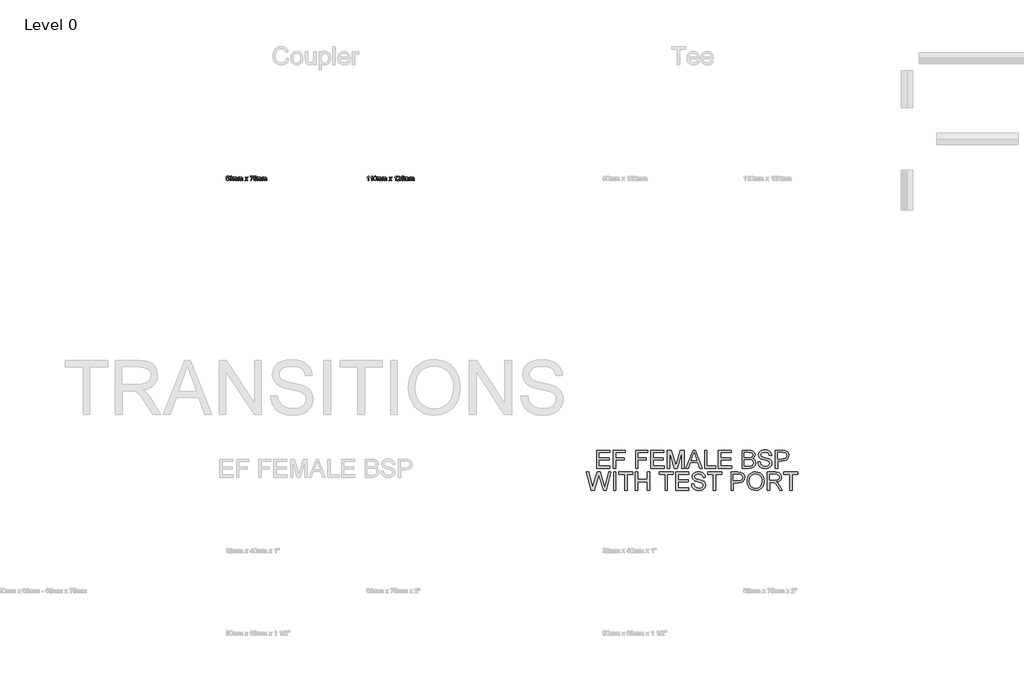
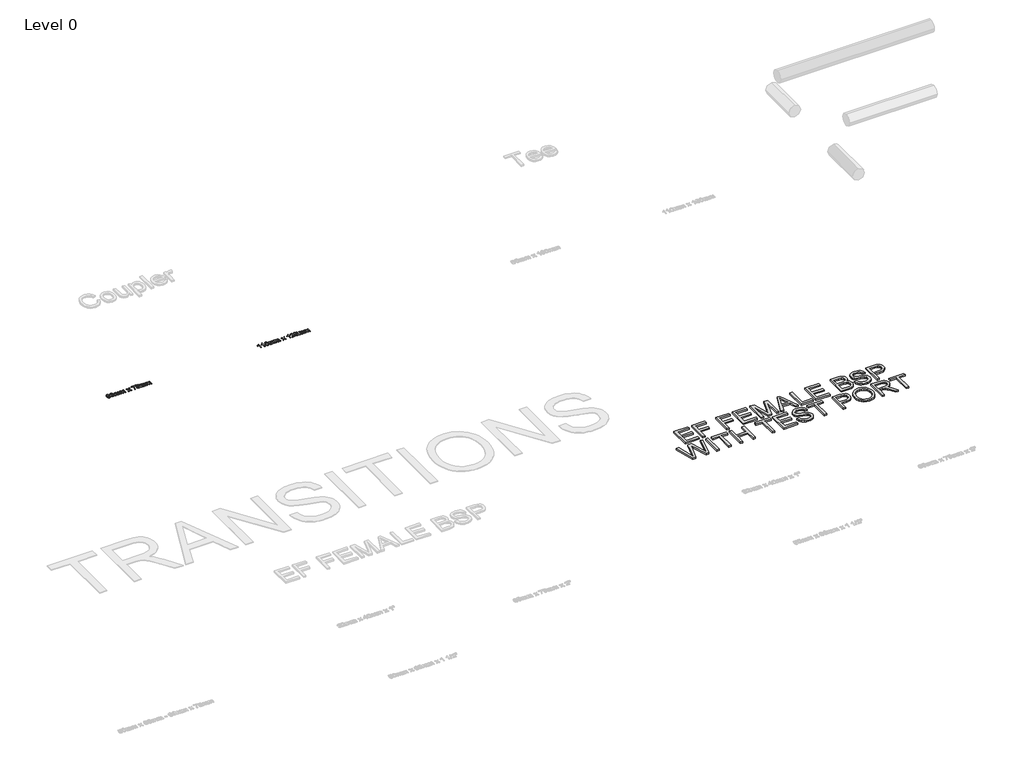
# One storey, part 6 of 21: 3 proxies.
"""IFC4 building model written with IfcOpenShell, lengths in millimetres."""

from ifc_helpers import new_model, si_unit, origin, origin_with_axes, place, context, project, spatial, polyline, outline, extrude, element, save

model = new_model("IFC4")

# Units and contexts
model_context = context("Model", 3, world=origin())
ifc_project = project(units=[si_unit("LENGTHUNIT", "METRE", prefix="MILLI")], contexts=[model_context])

# Site, building, storey
site = spatial("IfcSite", under=ifc_project)
building = spatial("IfcBuilding", under=site)
storey = spatial("IfcBuildingStorey", under=building, Name="Level 0", Elevation=0.0)

# Proxies
placement = place(None, origin())
element("IfcBuildingElementProxy", 1, Name="200mm Arial", ObjectType="200mm Arial", at=placement, inside=storey, context=model_context, shape_type="SweptSolid", body=[
    extrude(outline(polyline([(-3307.146494, -11853.2112631), (-3307.146494, -11652.2986428), (-3162.7405482, -11652.2986428), (-3162.7405482, -11677.4127203), (-3282.0324165, -11677.4127203), (-3282.0324165, -11737.0586545), (-3169.0190676, -11737.0586545), (-3169.0190676, -11762.172732), (-3282.0324165, -11762.172732), (-3282.0324165, -11828.0971856), (-3159.6012885, -11828.0971856), (-3159.6012885, -11853.2112631), (-3307.146494, -11853.2112631)])), origin_with_axes(), (0.0, 0.0, 1.0), 15.0),
    extrude(outline(polyline([(-3121.9301722, -11853.2112631), (-3121.9301722, -11652.2986428), (-2986.9420054, -11652.2986428), (-2986.9420054, -11677.4127203), (-3096.8160946, -11677.4127203), (-3096.8160946, -11737.0586545), (-3002.6383039, -11737.0586545), (-3002.6383039, -11762.172732), (-3096.8160946, -11762.172732), (-3096.8160946, -11853.2112631), (-3121.9301722, -11853.2112631)])), origin_with_axes(), (0.0, 0.0, 1.0), 15.0),
    extrude(outline(polyline([(-2873.9286565, -11853.2112631), (-2873.9286565, -11652.2986428), (-2738.9404897, -11652.2986428), (-2738.9404897, -11677.4127203), (-2848.814579, -11677.4127203), (-2848.814579, -11737.0586545), (-2754.6367882, -11737.0586545), (-2754.6367882, -11762.172732), (-2848.814579, -11762.172732), (-2848.814579, -11853.2112631), (-2873.9286565, -11853.2112631)])), origin_with_axes(), (0.0, 0.0, 1.0), 15.0),
    extrude(outline(polyline([(-2704.4086331, -11853.2112631), (-2704.4086331, -11652.2986428), (-2560.0026873, -11652.2986428), (-2560.0026873, -11677.4127203), (-2679.2945556, -11677.4127203), (-2679.2945556, -11737.0586545), (-2566.2812067, -11737.0586545), (-2566.2812067, -11762.172732), (-2679.2945556, -11762.172732), (-2679.2945556, -11828.0971856), (-2556.8634276, -11828.0971856), (-2556.8634276, -11853.2112631), (-2704.4086331, -11853.2112631)])), origin_with_axes(), (0.0, 0.0, 1.0), 15.0),
    extrude(outline(polyline([(-2519.1923113, -11853.2112631), (-2519.1923113, -11652.2986428), (-2475.9784396, -11652.2986428), (-2434.873758, -11793.9086855), (-2426.5841504, -11823.4863979), (-2417.6078297, -11791.4561388), (-2377.1898611, -11652.2986428), (-2333.9759894, -11652.2986428), (-2333.9759894, -11853.2112631), (-2359.090067, -11853.2112631), (-2359.090067, -11677.4127203), (-2409.5634767, -11853.2112631), (-2443.604824, -11853.2112631), (-2494.0782337, -11677.4127203), (-2494.0782337, -11853.2112631), (-2519.1923113, -11853.2112631)])), origin_with_axes(), (0.0, 0.0, 1.0), 15.0),
    extrude(outline(polyline([(-2313.4236486, -11853.2112631), (-2233.2253737, -11652.2986428), (-2211.839167, -11652.2986428), (-2131.6408921, -11853.2112631), (-2158.1774467, -11853.2112631), (-2181.1823341, -11790.4260692), (-2263.9312576, -11790.4260692), (-2286.8870941, -11853.2112631), (-2313.4236486, -11853.2112631)]), holes=[polyline([(-2254.7096822, -11765.3119917), (-2190.3548585, -11765.3119917), (-2208.4546527, -11715.9177025), (-2222.5322704, -11677.4127203), (-2235.0402582, -11711.6012204), (-2254.7096822, -11765.3119917)])]), origin_with_axes(), (0.0, 0.0, 1.0), 15.0),
    extrude(outline(polyline([(-2104.8100319, -11853.2112631), (-2104.8100319, -11652.2986428), (-2079.6959544, -11652.2986428), (-2079.6959544, -11828.0971856), (-1979.2396442, -11828.0971856), (-1979.2396442, -11853.2112631), (-2104.8100319, -11853.2112631)])), origin_with_axes(), (0.0, 0.0, 1.0), 15.0),
    extrude(outline(polyline([(-1950.986307, -11853.2112631), (-1950.986307, -11652.2986428), (-1806.5803612, -11652.2986428), (-1806.5803612, -11677.4127203), (-1925.8722295, -11677.4127203), (-1925.8722295, -11737.0586545), (-1812.8588805, -11737.0586545), (-1812.8588805, -11762.172732), (-1925.8722295, -11762.172732), (-1925.8722295, -11828.0971856), (-1803.4411015, -11828.0971856), (-1803.4411015, -11853.2112631), (-1950.986307, -11853.2112631)])), origin_with_axes(), (0.0, 0.0, 1.0), 15.0),
    extrude(outline(polyline([(-1687.2884929, -11853.2112631), (-1687.2884929, -11652.2986428), (-1610.6218851, -11652.2986428), (-1589.5361154, -11653.7763021), (-1573.0733961, -11658.2092802), (-1560.4550437, -11665.7079415), (-1550.9023745, -11676.3826507), (-1544.8875039, -11688.9396895), (-1542.882547, -11702.0853395), (-1544.5686728, -11714.1825257), (-1549.6270503, -11725.5562108), (-1558.0944675, -11735.5074187), (-1570.0077128, -11743.3371739), (-1555.7768109, -11750.7683902), (-1545.2615173, -11762.0746302), (-1538.7684, -11776.5078671), (-1536.6040276, -11793.3200743), (-1542.514665, -11820.3226127), (-1557.1563684, -11839.5505783), (-1579.0085589, -11849.7531723), (-1611.2104963, -11853.2112631), (-1687.2884929, -11853.2112631)]), holes=[polyline([(-1662.1744153, -11733.9193948), (-1616.3117933, -11733.9193948), (-1589.529984, -11731.7611537), (-1573.4167526, -11722.466002), (-1567.9966246, -11706.107516), (-1573.0488706, -11689.7245044), (-1587.5188958, -11680.0369452), (-1619.7944095, -11677.4127203), (-1662.1744153, -11677.4127203), (-1662.1744153, -11733.9193948)]), polyline([(-1662.1744153, -11828.0971856), (-1610.670936, -11828.0971856), (-1592.0315816, -11827.1161669), (-1576.2617067, -11821.6469879), (-1565.813858, -11810.4879007), (-1561.7181052, -11793.5653289), (-1566.5250966, -11774.0430577), (-1572.8220101, -11766.9858548), (-1582.0987677, -11762.3934612), (-1613.1234826, -11759.0334723), (-1662.1744153, -11759.0334723), (-1662.1744153, -11828.0971856)])]), origin_with_axes(), (0.0, 0.0, 1.0), 15.0),
    extrude(outline(polyline([(-1511.4899501, -11784.1475499), (-1486.3758726, -11784.1475499), (-1478.2824687, -11809.2861529), (-1470.1522766, -11818.1766344), (-1458.5149428, -11825.1786551), (-1444.2901723, -11829.7219977), (-1428.3976701, -11831.2364452), (-1402.1554211, -11826.650183), (-1385.2083239, -11814.0440933), (-1379.641043, -11797.195098), (-1383.8103723, -11781.523325), (-1390.1624681, -11775.3245133), (-1400.8800969, -11770.1189831), (-1437.4475672, -11760.5295258), (-1476.8109407, -11748.1441653), (-1489.3127972, -11739.6951421), (-1498.1726219, -11729.4557599), (-1503.4517285, -11717.6467479), (-1505.2114307, -11704.4888352), (-1503.0347956, -11689.7796867), (-1496.5048902, -11676.0638197), (-1485.7933927, -11664.4387486), (-1471.0719816, -11656.0019882), (-1453.4013831, -11650.8700344), (-1433.8423236, -11649.1593831), (-1412.6523207, -11650.9497421), (-1394.1110682, -11656.3208193), (-1378.8807536, -11665.1622499), (-1367.6235645, -11677.3636694), (-1360.4989165, -11692.1647883), (-1357.6662252, -11708.8053173), (-1382.7803027, -11708.8053173), (-1387.3910904, -11693.8202573), (-1397.0050732, -11683.0045267), (-1412.0269213, -11676.4562271), (-1432.861305, -11674.2734606), (-1454.186198, -11676.4317017), (-1468.8156387, -11682.9064248), (-1477.2769245, -11692.4345685), (-1480.0973532, -11703.7530712), (-1478.0985277, -11713.4038422), (-1472.1020511, -11721.1661523), (-1457.9263316, -11728.1068593), (-1431.0954714, -11735.194719), (-1386.6553264, -11747.8008087), (-1372.3385854, -11756.9120195), (-1362.3505892, -11768.1569458), (-1356.4828714, -11781.4129604), (-1354.5269655, -11796.5574358), (-1356.777177, -11812.0391365), (-1363.5278116, -11826.6011321), (-1374.5029578, -11839.1336454), (-1389.4267041, -11848.526899), (-1407.3732141, -11854.3946168), (-1427.4166515, -11856.3505228), (-1452.0218256, -11854.2413327), (-1472.2737294, -11847.9137624), (-1488.4053549, -11837.3432864), (-1500.649694, -11822.5053792), (-1508.5101059, -11804.4301105), (-1511.4899501, -11784.1475499)])), origin_with_axes(), (0.0, 0.0, 1.0), 15.0),
    extrude(outline(polyline([(-1316.8558492, -11853.2112631), (-1316.8558492, -11652.2986428), (-1242.3965334, -11652.2986428), (-1212.3773625, -11654.2116292), (-1187.9745235, -11663.6048828), (-1179.1024361, -11671.9312786), (-1172.1555977, -11683.0290521), (-1167.6674374, -11696.1195198), (-1166.171384, -11710.423998), (-1170.2119545, -11734.1033358), (-1182.3336663, -11753.8340735), (-1192.0411524, -11761.6025149), (-1205.0013285, -11767.1514017), (-1240.6797507, -11771.5905111), (-1291.7417716, -11771.5905111), (-1291.7417716, -11853.2112631), (-1316.8558492, -11853.2112631)]), holes=[polyline([(-1291.7417716, -11746.4764336), (-1239.2082227, -11746.4764336), (-1216.9390993, -11744.1710397), (-1202.2238195, -11737.2548582), (-1194.020051, -11726.1570847), (-1191.2854615, -11711.3069148), (-1192.8980109, -11700.0252003), (-1197.7356591, -11690.5093194), (-1205.1975323, -11683.3478832), (-1214.6827564, -11679.129503), (-1239.7968339, -11677.4127203), (-1291.7417716, -11677.4127203), (-1291.7417716, -11746.4764336)])]), origin_with_axes(), (0.0, 0.0, 1.0), 15.0),
    extrude(outline(polyline([(-3366.939581, -12097.1608988), (-3421.7294728, -11896.2482785), (-3395.8305803, -11896.2482785), (-3364.0455759, -12028.2933893), (-3354.2353894, -12069.0547143), (-3343.7384898, -12033.0022788), (-3303.9091325, -11896.2482785), (-3266.5813727, -11896.2482785), (-3237.6413224, -11995.3802134), (-3216.1079629, -12069.0547143), (-3206.592082, -12029.4706117), (-3174.512772, -11896.2482785), (-3148.6138796, -11896.2482785), (-3203.4528223, -12097.1608988), (-3230.2836825, -12097.1608988), (-3278.4516984, -11942.1599515), (-3285.1716762, -11920.5284902), (-3292.7255198, -11946.5745354), (-3336.6261046, -12097.1608988), (-3366.939581, -12097.1608988)])), origin_with_axes(), (0.0, 0.0, 1.0), 15.0),
    extrude(outline(polyline([(-3120.3605423, -12097.1608988), (-3120.3605423, -11896.2482785), (-3095.2464648, -11896.2482785), (-3095.2464648, -12097.1608988), (-3120.3605423, -12097.1608988)])), origin_with_axes(), (0.0, 0.0, 1.0), 15.0),
    extrude(outline(polyline([(-2994.7901546, -12097.1608988), (-2994.7901546, -11921.362356), (-3060.7146082, -11921.362356), (-3060.7146082, -11896.2482785), (-2903.7516236, -11896.2482785), (-2903.7516236, -11921.362356), (-2969.6760771, -11921.362356), (-2969.6760771, -12097.1608988), (-2994.7901546, -12097.1608988)])), origin_with_axes(), (0.0, 0.0, 1.0), 15.0),
    extrude(outline(polyline([(-2875.4982863, -12097.1608988), (-2875.4982863, -11896.2482785), (-2850.3842088, -11896.2482785), (-2850.3842088, -11977.8690305), (-2743.6493793, -11977.8690305), (-2743.6493793, -11896.2482785), (-2718.5353017, -11896.2482785), (-2718.5353017, -12097.1608988), (-2743.6493793, -12097.1608988), (-2743.6493793, -12002.983108), (-2850.3842088, -12002.983108), (-2850.3842088, -12097.1608988), (-2875.4982863, -12097.1608988)])), origin_with_axes(), (0.0, 0.0, 1.0), 15.0),
    extrude(outline(polyline([(-2545.8760187, -12097.1608988), (-2545.8760187, -11921.362356), (-2611.8004722, -11921.362356), (-2611.8004722, -11896.2482785), (-2454.8374876, -11896.2482785), (-2454.8374876, -11921.362356), (-2520.7619411, -11921.362356), (-2520.7619411, -12097.1608988), (-2545.8760187, -12097.1608988)])), origin_with_axes(), (0.0, 0.0, 1.0), 15.0),
    extrude(outline(polyline([(-2426.5841504, -12097.1608988), (-2426.5841504, -11896.2482785), (-2282.1782045, -11896.2482785), (-2282.1782045, -11921.362356), (-2401.4700728, -11921.362356), (-2401.4700728, -11981.0082902), (-2288.4567239, -11981.0082902), (-2288.4567239, -12006.1223677), (-2401.4700728, -12006.1223677), (-2401.4700728, -12072.0468212), (-2279.0389448, -12072.0468212), (-2279.0389448, -12097.1608988), (-2426.5841504, -12097.1608988)])), origin_with_axes(), (0.0, 0.0, 1.0), 15.0),
    extrude(outline(polyline([(-2250.7856076, -12028.0971856), (-2225.6715301, -12028.0971856), (-2217.5781262, -12053.2357886), (-2209.4479341, -12062.1262701), (-2197.8106003, -12069.1282907), (-2183.5858298, -12073.6716334), (-2167.6933276, -12075.1860809), (-2141.4510786, -12070.5998187), (-2124.5039814, -12057.993729), (-2118.9367005, -12041.1447336), (-2123.1060298, -12025.4729607), (-2129.4581256, -12019.274149), (-2140.1757544, -12014.0686188), (-2176.7432247, -12004.4791615), (-2216.1065982, -11992.093801), (-2228.6084547, -11983.6447778), (-2237.4682794, -11973.4053956), (-2242.747386, -11961.5963836), (-2244.5070882, -11948.4384709), (-2242.3304531, -11933.7293224), (-2235.8005477, -11920.0134554), (-2225.0890502, -11908.3883843), (-2210.3676391, -11899.9516239), (-2192.6970406, -11894.8196701), (-2173.1379812, -11893.1090188), (-2151.9479782, -11894.8993778), (-2133.4067257, -11900.270455), (-2118.1764111, -11909.1118856), (-2106.919222, -11921.3133051), (-2099.794574, -11936.114424), (-2096.9618827, -11952.7549529), (-2122.0759602, -11952.7549529), (-2126.6867479, -11937.769893), (-2136.3007307, -11926.9541623), (-2151.3225788, -11920.4058628), (-2172.1569625, -11918.2230963), (-2193.4818555, -11920.3813374), (-2208.1112962, -11926.8560605), (-2216.572582, -11936.3842042), (-2219.3930107, -11947.7027069), (-2217.3941852, -11957.3534779), (-2211.3977087, -11965.115788), (-2197.2219891, -11972.056495), (-2170.3911289, -11979.1443547), (-2125.9509839, -11991.7504444), (-2111.6342429, -12000.8616552), (-2101.6462468, -12012.1065815), (-2095.7785289, -12025.3625961), (-2093.822623, -12040.5070715), (-2096.0728345, -12055.9887722), (-2102.8234691, -12070.5507678), (-2113.7986153, -12083.0832811), (-2128.7223616, -12092.4765347), (-2146.6688716, -12098.3442525), (-2166.712309, -12100.3001585), (-2191.3174831, -12098.1909684), (-2211.5693869, -12091.8633981), (-2227.7010124, -12081.2929221), (-2239.9453515, -12066.4550149), (-2247.8057634, -12048.3797462), (-2250.7856076, -12028.0971856)])), origin_with_axes(), (0.0, 0.0, 1.0), 15.0),
    extrude(outline(polyline([(-2005.9233516, -12097.1608988), (-2005.9233516, -11921.362356), (-2071.8478051, -11921.362356), (-2071.8478051, -11896.2482785), (-1914.8848205, -11896.2482785), (-1914.8848205, -11921.362356), (-1980.8092741, -11921.362356), (-1980.8092741, -12097.1608988), (-2005.9233516, -12097.1608988)])), origin_with_axes(), (0.0, 0.0, 1.0), 15.0),
    extrude(outline(polyline([(-1808.149991, -12097.1608988), (-1808.149991, -11896.2482785), (-1733.6906752, -11896.2482785), (-1703.6715044, -11898.1612649), (-1679.2686654, -11907.5545185), (-1670.3965779, -11915.8809143), (-1663.4497396, -11926.9786878), (-1658.9615792, -11940.0691555), (-1657.4655258, -11954.3736337), (-1661.5060964, -11978.0529715), (-1673.6278081, -11997.7837092), (-1683.3352942, -12005.5521506), (-1696.2954704, -12011.1010374), (-1731.9738925, -12015.5401468), (-1783.0359135, -12015.5401468), (-1783.0359135, -12097.1608988), (-1808.149991, -12097.1608988)]), holes=[polyline([(-1783.0359135, -11990.4260692), (-1730.5023646, -11990.4260692), (-1708.2332411, -11988.1206754), (-1693.5179613, -11981.2044939), (-1685.3141928, -11970.1067204), (-1682.5796033, -11955.2565505), (-1684.1921527, -11943.974836), (-1689.029801, -11934.458955), (-1696.4916741, -11927.2975189), (-1705.9768982, -11923.0791387), (-1731.0909757, -11921.362356), (-1783.0359135, -11921.362356), (-1783.0359135, -11990.4260692)])]), origin_with_axes(), (0.0, 0.0, 1.0), 15.0),
    extrude(outline(polyline([(-1632.3514482, -11999.353339), (-1630.6775852, -11975.7874315), (-1625.6559959, -11954.9254567), (-1617.2866805, -11936.7674146), (-1605.569639, -11921.3133051), (-1591.2069128, -11908.9739298), (-1574.9005433, -11900.1600904), (-1556.6505307, -11894.8717867), (-1536.4568748, -11893.1090188), (-1510.1042612, -11896.4199567), (-1486.4739744, -11906.3527706), (-1466.8536013, -11922.2084846), (-1452.530729, -11943.2881229), (-1443.7751375, -11968.5738787), (-1440.856607, -11997.0479452), (-1443.9284217, -12025.9021563), (-1453.1438657, -12051.5435314), (-1467.9940355, -12072.6599579), (-1487.9700279, -12087.9393234), (-1511.3979796, -12097.2099497), (-1536.6040276, -12100.3001585), (-1563.3613114, -12096.8849873), (-1587.1264883, -12086.6394737), (-1606.6978104, -12070.4894541), (-1620.87353, -12049.3607649), (-1629.4819687, -12025.0498964), (-1632.3514482, -11999.353339)]), holes=[polyline([(-1607.2373707, -11999.5985937), (-1602.2157815, -12031.0279788), (-1587.1510138, -12054.9770967), (-1564.507877, -12070.1338349), (-1536.7511804, -12075.1860809), (-1508.5898137, -12070.0847839), (-1485.9098887, -12054.7808929), (-1477.1864869, -12043.5083755), (-1470.9554856, -12030.0960111), (-1465.9706846, -11996.8517414), (-1468.1044001, -11974.6194062), (-1474.5055468, -11955.4037033), (-1485.0085778, -11939.6890107), (-1499.4479461, -11927.9597065), (-1516.8671586, -11920.6572489), (-1536.309722, -11918.2230963), (-1563.3245232, -11922.9135918), (-1586.2926224, -11936.9850781), (-1595.4559498, -11947.934166), (-1602.0011836, -11962.0194479), (-1607.2373707, -11999.5985937)])]), origin_with_axes(), (0.0, 0.0, 1.0), 15.0),
    extrude(outline(polyline([(-1406.3247504, -12097.1608988), (-1406.3247504, -11896.2482785), (-1319.7498542, -11896.2482785), (-1296.481318, -11897.6033105), (-1279.5526149, -11901.6684065), (-1267.1795171, -11909.1731992), (-1257.577797, -11920.8473212), (-1251.4157736, -11935.3234777), (-1249.3617658, -11951.234374), (-1252.7646743, -11971.0264254), (-1262.9733996, -11987.4339624), (-1280.2945102, -11999.4637036), (-1305.0345744, -12006.1223677), (-1290.760753, -12016.864522), (-1270.4046159, -12042.7143635), (-1236.9028289, -12097.1608988), (-1266.0881338, -12097.1608988), (-1292.232281, -12055.5166569), (-1311.1168901, -12027.9500328), (-1324.3851673, -12014.9270101), (-1336.3290695, -12010.1445442), (-1350.8971965, -12009.2616274), (-1381.2106729, -12009.2616274), (-1381.2106729, -12097.1608988), (-1406.3247504, -12097.1608988)]), holes=[polyline([(-1381.2106729, -11984.1475499), (-1324.998304, -11984.1475499), (-1296.3280338, -11980.5913572), (-1286.897992, -11975.9683068), (-1280.0431242, -11969.2115409), (-1274.4758433, -11952.1663417), (-1277.1307251, -11939.9158713), (-1285.0953703, -11930.0443711), (-1298.7989746, -11923.5328598), (-1318.6707337, -11921.362356), (-1381.2106729, -11921.362356), (-1381.2106729, -11984.1475499)])]), origin_with_axes(), (0.0, 0.0, 1.0), 15.0),
    extrude(outline(polyline([(-1155.183975, -12097.1608988), (-1155.183975, -11921.362356), (-1221.1084286, -11921.362356), (-1221.1084286, -11896.2482785), (-1064.145444, -11896.2482785), (-1064.145444, -11921.362356), (-1130.0698975, -11921.362356), (-1130.0698975, -12097.1608988), (-1155.183975, -12097.1608988)])), origin_with_axes(), (0.0, 0.0, 1.0), 15.0),
])
element("IfcBuildingElementProxy", 2, Name="50mm", ObjectType="50mm", at=placement, inside=storey, context=model_context, shape_type="SweptSolid", body=[
    extrude(outline(polyline([(-7406.051157, -8606.9585336), (-7412.3296764, -8607.7433485), (-7414.7086466, -8602.5071615), (-7420.9994287, -8599.8951993), (-7426.6648115, -8601.4157782), (-7430.9506367, -8607.1240805), (-7432.7348644, -8618.3138245), (-7427.1982403, -8613.304498), (-7420.3372411, -8611.6674232), (-7409.6686633, -8616.1433208), (-7405.2663421, -8627.7070781), (-7407.338744, -8636.3706991), (-7413.0409149, -8642.5020657), (-7421.2692089, -8644.6296499), (-7434.0653709, -8638.9887927), (-7437.7763805, -8631.5207882), (-7439.0133838, -8620.3984892), (-7437.6399576, -8607.893567), (-7433.5196793, -8599.3433763), (-7427.8941505, -8595.048354), (-7420.6070213, -8593.6166799), (-7410.6864701, -8597.1606098), (-7406.051157, -8606.9585336)]), holes=[polyline([(-7432.7348644, -8627.6089763), (-7431.2817305, -8633.0474984), (-7427.4189695, -8636.9960985), (-7421.7597182, -8638.3511305), (-7414.3591587, -8635.5429646), (-7411.5448614, -8627.9155446), (-7414.3223705, -8620.613087), (-7422.0172356, -8617.9459425), (-7429.6139988, -8620.613087), (-7432.7348644, -8627.6089763)])]), origin_with_axes(), (0.0, 0.0, 1.0), 5.0),
    extrude(outline(polyline([(-7399.7726376, -8630.5029813), (-7393.4941182, -8629.7181664), (-7390.0298961, -8636.3277796), (-7383.5490416, -8638.3511305), (-7375.9216216, -8635.5674901), (-7373.0889302, -8628.6758341), (-7375.8970961, -8622.1827169), (-7383.0340068, -8619.6136743), (-7387.436328, -8620.3003873), (-7386.7373522, -8614.0218679), (-7378.6071601, -8612.2928225), (-7375.443375, -8606.7500672), (-7377.7365061, -8601.8388425), (-7383.6471435, -8599.8951993), (-7389.6313573, -8601.8572366), (-7392.7093033, -8607.7433485), (-7398.9878227, -8606.9585336), (-7393.8497375, -8597.1115589), (-7383.8678727, -8593.6166799), (-7376.2956349, -8595.3395939), (-7370.9981342, -8600.0484835), (-7369.1648556, -8606.3821852), (-7370.9061637, -8612.1701952), (-7376.0565116, -8616.3272618), (-7369.2139065, -8620.6192184), (-7366.8104108, -8628.7861987), (-7371.6174022, -8640.0188623), (-7383.7697708, -8644.6296499), (-7394.7817052, -8640.6933126), (-7399.7726376, -8630.5029813)])), origin_with_axes(), (0.0, 0.0, 1.0), 5.0),
    extrude(outline(polyline([(-7359.7470765, -8643.844835), (-7359.7470765, -8606.9585336), (-7353.4685571, -8606.9585336), (-7353.4685571, -8613.0285865), (-7349.1520751, -8608.0560482), (-7343.0084457, -8606.1737187), (-7336.7176636, -8608.0928364), (-7333.2595729, -8613.4700449), (-7328.360611, -8607.9978003), (-7322.1740621, -8606.1737187), (-7313.9641622, -8609.2087452), (-7311.0885513, -8618.5590792), (-7311.0885513, -8643.844835), (-7317.3670707, -8643.844835), (-7317.3670707, -8621.2568805), (-7317.9495505, -8616.0145621), (-7320.0587406, -8613.4332567), (-7323.6455901, -8612.4522381), (-7329.8198762, -8614.9660984), (-7332.2785542, -8623.0227141), (-7332.2785542, -8643.844835), (-7338.5570736, -8643.844835), (-7338.5570736, -8620.5579047), (-7340.0102075, -8614.4755891), (-7344.7742793, -8612.4522381), (-7349.4218552, -8613.8011387), (-7352.512064, -8617.7497388), (-7353.4685571, -8625.2422688), (-7353.4685571, -8643.844835), (-7359.7470765, -8643.844835)])), origin_with_axes(), (0.0, 0.0, 1.0), 5.0),
    extrude(outline(polyline([(-7301.6707722, -8643.844835), (-7301.6707722, -8606.9585336), (-7295.3922528, -8606.9585336), (-7295.3922528, -8613.0285865), (-7291.0757708, -8608.0560482), (-7284.9321414, -8606.1737187), (-7278.6413593, -8608.0928364), (-7275.1832686, -8613.4700449), (-7270.2843067, -8607.9978003), (-7264.0977578, -8606.1737187), (-7255.8878579, -8609.2087452), (-7253.012247, -8618.5590792), (-7253.012247, -8643.844835), (-7259.2907664, -8643.844835), (-7259.2907664, -8621.2568805), (-7259.8732462, -8616.0145621), (-7261.9824363, -8613.4332567), (-7265.5692858, -8612.4522381), (-7271.7435719, -8614.9660984), (-7274.2022499, -8623.0227141), (-7274.2022499, -8643.844835), (-7280.4807693, -8643.844835), (-7280.4807693, -8620.5579047), (-7281.9339032, -8614.4755891), (-7286.697975, -8612.4522381), (-7291.3455509, -8613.8011387), (-7294.4357597, -8617.7497388), (-7295.3922528, -8625.2422688), (-7295.3922528, -8643.844835), (-7301.6707722, -8643.844835)])), origin_with_axes(), (0.0, 0.0, 1.0), 5.0),
    extrude(outline(polyline([(-7227.8981695, -8643.844835), (-7214.4827394, -8625.3035824), (-7227.1133545, -8606.9585336), (-7219.5595109, -8606.9585336), (-7213.4649325, -8615.7877015), (-7210.6199784, -8619.9570308), (-7208.155169, -8616.547991), (-7201.2144621, -8606.9585336), (-7193.6606184, -8606.9585336), (-7206.9288957, -8625.3035824), (-7194.1511278, -8643.844835), (-7201.7049714, -8643.844835), (-7209.3937051, -8632.6980105), (-7210.8039194, -8630.6623968), (-7220.3443258, -8643.844835), (-7227.8981695, -8643.844835)])), origin_with_axes(), (0.0, 0.0, 1.0), 5.0),
    extrude(outline(polyline([(-7170.6066801, -8600.6800142), (-7170.6066801, -8594.4014948), (-7137.6444533, -8594.4014948), (-7137.6444533, -8599.4782664), (-7146.9947874, -8612.985667), (-7154.1500922, -8630.196413), (-7156.4800115, -8643.844835), (-7162.7585308, -8643.844835), (-7160.2630646, -8629.6813782), (-7153.4143282, -8613.67238), (-7143.9229727, -8600.6800142), (-7170.6066801, -8600.6800142)])), origin_with_axes(), (0.0, 0.0, 1.0), 5.0),
    extrude(outline(polyline([(-7132.1507488, -8630.5029813), (-7125.8722295, -8629.7181664), (-7122.7084443, -8636.1867581), (-7116.1478821, -8638.3511305), (-7108.2752074, -8635.3406295), (-7105.4670415, -8627.3514589), (-7108.0973977, -8619.8957171), (-7116.0497802, -8617.1611276), (-7121.5618788, -8618.2525109), (-7125.0874145, -8621.0852022), (-7131.3659339, -8620.3003873), (-7125.8722295, -8594.4014948), (-7101.5429668, -8594.4014948), (-7101.5429668, -8600.6800142), (-7120.7954579, -8600.6800142), (-7123.4809965, -8614.5123773), (-7114.2962093, -8610.8826082), (-7103.5601865, -8615.3830313), (-7099.1885221, -8626.9590514), (-7103.1248594, -8638.6086479), (-7108.7779794, -8643.1243994), (-7116.1724075, -8644.6296499), (-7127.2517869, -8640.7607576), (-7132.1507488, -8630.5029813)])), origin_with_axes(), (0.0, 0.0, 1.0), 5.0),
    extrude(outline(polyline([(-7092.1251878, -8643.844835), (-7092.1251878, -8606.9585336), (-7085.8466684, -8606.9585336), (-7085.8466684, -8613.0285865), (-7081.5301863, -8608.0560482), (-7075.386557, -8606.1737187), (-7069.0957749, -8608.0928364), (-7065.6376841, -8613.4700449), (-7060.7387222, -8607.9978003), (-7054.5521733, -8606.1737187), (-7046.3422735, -8609.2087452), (-7043.4666625, -8618.5590792), (-7043.4666625, -8643.844835), (-7049.7451819, -8643.844835), (-7049.7451819, -8621.2568805), (-7050.3276618, -8616.0145621), (-7052.4368519, -8613.4332567), (-7056.0237013, -8612.4522381), (-7062.1979875, -8614.9660984), (-7064.6566655, -8623.0227141), (-7064.6566655, -8643.844835), (-7070.9351848, -8643.844835), (-7070.9351848, -8620.5579047), (-7072.3883187, -8614.4755891), (-7077.1523906, -8612.4522381), (-7081.7999664, -8613.8011387), (-7084.8901752, -8617.7497388), (-7085.8466684, -8625.2422688), (-7085.8466684, -8643.844835), (-7092.1251878, -8643.844835)])), origin_with_axes(), (0.0, 0.0, 1.0), 5.0),
    extrude(outline(polyline([(-7034.0488835, -8643.844835), (-7034.0488835, -8606.9585336), (-7027.7703641, -8606.9585336), (-7027.7703641, -8613.0285865), (-7023.453882, -8608.0560482), (-7017.3102527, -8606.1737187), (-7011.0194706, -8608.0928364), (-7007.5613798, -8613.4700449), (-7002.6624179, -8607.9978003), (-6996.475869, -8606.1737187), (-6988.2659692, -8609.2087452), (-6985.3903582, -8618.5590792), (-6985.3903582, -8643.844835), (-6991.6688776, -8643.844835), (-6991.6688776, -8621.2568805), (-6992.2513574, -8616.0145621), (-6994.3605476, -8613.4332567), (-6997.947397, -8612.4522381), (-7004.1216832, -8614.9660984), (-7006.5803612, -8623.0227141), (-7006.5803612, -8643.844835), (-7012.8588805, -8643.844835), (-7012.8588805, -8620.5579047), (-7014.3120144, -8614.4755891), (-7019.0760863, -8612.4522381), (-7023.7236621, -8613.8011387), (-7026.8138709, -8617.7497388), (-7027.7703641, -8625.2422688), (-7027.7703641, -8643.844835), (-7034.0488835, -8643.844835)])), origin_with_axes(), (0.0, 0.0, 1.0), 5.0),
])
element("IfcBuildingElementProxy", 3, Name="50mm", ObjectType="50mm", at=placement, inside=storey, context=model_context, shape_type="SweptSolid", body=[
    extrude(outline(polyline([(-5848.0954492, -8643.844835), (-5854.3739685, -8643.844835), (-5854.3739685, -8604.7021907), (-5860.3213941, -8608.938965), (-5866.9310073, -8612.1088815), (-5866.9310073, -8606.1737187), (-5857.7278261, -8600.2998695), (-5852.1421511, -8593.6166799), (-5848.0954492, -8593.6166799), (-5848.0954492, -8643.844835)])), origin_with_axes(), (0.0, 0.0, 1.0), 5.0),
    extrude(outline(polyline([(-5809.6395179, -8643.844835), (-5815.9180373, -8643.844835), (-5815.9180373, -8604.7021907), (-5821.8654629, -8608.938965), (-5828.4750761, -8612.1088815), (-5828.4750761, -8606.1737187), (-5819.2718948, -8600.2998695), (-5813.6862199, -8593.6166799), (-5809.6395179, -8593.6166799), (-5809.6395179, -8643.844835)])), origin_with_axes(), (0.0, 0.0, 1.0), 5.0),
    extrude(outline(polyline([(-5794.7280344, -8619.1354277), (-5792.8824931, -8604.6837966), (-5787.4010513, -8596.3512694), (-5778.246921, -8593.6166799), (-5770.9138066, -8595.2353607), (-5765.8492978, -8599.9013307), (-5762.9062418, -8607.332547), (-5761.7658076, -8619.1354277), (-5763.5929549, -8633.525745), (-5769.0560025, -8641.8766663), (-5778.246921, -8644.6296499), (-5789.7248393, -8639.847184), (-5793.4772356, -8631.3521756), (-5794.7280344, -8619.1354277)]), holes=[polyline([(-5788.449515, -8619.1231649), (-5785.5064591, -8634.7152302), (-5778.246921, -8638.3511305), (-5770.987383, -8634.7029674), (-5768.044327, -8619.1231649), (-5770.8892811, -8603.7089093), (-5778.3204974, -8599.8951993), (-5785.4083572, -8603.2551882), (-5788.449515, -8619.1231649)])]), origin_with_axes(), (0.0, 0.0, 1.0), 5.0),
    extrude(outline(polyline([(-5754.7024733, -8643.844835), (-5754.7024733, -8606.9585336), (-5748.4239539, -8606.9585336), (-5748.4239539, -8613.0285865), (-5744.1074719, -8608.0560482), (-5737.9638425, -8606.1737187), (-5731.6730604, -8608.0928364), (-5728.2149697, -8613.4700449), (-5723.3160078, -8607.9978003), (-5717.1294589, -8606.1737187), (-5708.919559, -8609.2087452), (-5706.0439481, -8618.5590792), (-5706.0439481, -8643.844835), (-5712.3224675, -8643.844835), (-5712.3224675, -8621.2568805), (-5712.9049473, -8616.0145621), (-5715.0141374, -8613.4332567), (-5718.6009869, -8612.4522381), (-5724.775273, -8614.9660984), (-5727.233951, -8623.0227141), (-5727.233951, -8643.844835), (-5733.5124704, -8643.844835), (-5733.5124704, -8620.5579047), (-5734.9656043, -8614.4755891), (-5739.7296761, -8612.4522381), (-5744.377252, -8613.8011387), (-5747.4674607, -8617.7497388), (-5748.4239539, -8625.2422688), (-5748.4239539, -8643.844835), (-5754.7024733, -8643.844835)])), origin_with_axes(), (0.0, 0.0, 1.0), 5.0),
    extrude(outline(polyline([(-5696.626169, -8643.844835), (-5696.626169, -8606.9585336), (-5690.3476496, -8606.9585336), (-5690.3476496, -8613.0285865), (-5686.0311676, -8608.0560482), (-5679.8875382, -8606.1737187), (-5673.5967561, -8608.0928364), (-5670.1386654, -8613.4700449), (-5665.2397035, -8607.9978003), (-5659.0531546, -8606.1737187), (-5650.8432547, -8609.2087452), (-5647.9676438, -8618.5590792), (-5647.9676438, -8643.844835), (-5654.2461632, -8643.844835), (-5654.2461632, -8621.2568805), (-5654.828643, -8616.0145621), (-5656.9378331, -8613.4332567), (-5660.5246826, -8612.4522381), (-5666.6989687, -8614.9660984), (-5669.1576467, -8623.0227141), (-5669.1576467, -8643.844835), (-5675.4361661, -8643.844835), (-5675.4361661, -8620.5579047), (-5676.8893, -8614.4755891), (-5681.6533718, -8612.4522381), (-5686.3009477, -8613.8011387), (-5689.3911564, -8617.7497388), (-5690.3476496, -8625.2422688), (-5690.3476496, -8643.844835), (-5696.626169, -8643.844835)])), origin_with_axes(), (0.0, 0.0, 1.0), 5.0),
    extrude(outline(polyline([(-5622.8535663, -8643.844835), (-5609.4381362, -8625.3035824), (-5622.0687513, -8606.9585336), (-5614.5149077, -8606.9585336), (-5608.4203293, -8615.7877015), (-5605.5753752, -8619.9570308), (-5603.1105658, -8616.547991), (-5596.1698589, -8606.9585336), (-5588.6160152, -8606.9585336), (-5601.8842925, -8625.3035824), (-5589.1065246, -8643.844835), (-5596.6603682, -8643.844835), (-5604.3491019, -8632.6980105), (-5605.7593162, -8630.6623968), (-5615.2997226, -8643.844835), (-5622.8535663, -8643.844835)])), origin_with_axes(), (0.0, 0.0, 1.0), 5.0),
    extrude(outline(polyline([(-5542.0176292, -8643.844835), (-5548.2961486, -8643.844835), (-5548.2961486, -8604.7021907), (-5554.2435741, -8608.938965), (-5560.8531873, -8612.1088815), (-5560.8531873, -8606.1737187), (-5551.6500061, -8600.2998695), (-5546.0643311, -8593.6166799), (-5542.0176292, -8593.6166799), (-5542.0176292, -8643.844835)])), origin_with_axes(), (0.0, 0.0, 1.0), 5.0),
    extrude(outline(polyline([(-5494.9287338, -8637.5663156), (-5494.9287338, -8643.844835), (-5527.8909606, -8643.844835), (-5527.2165102, -8639.5160902), (-5523.4028002, -8632.8512947), (-5515.5423883, -8625.5733626), (-5504.7021321, -8615.1132512), (-5501.9920681, -8608.0008659), (-5504.548848, -8602.2435127), (-5511.2259062, -8599.8951993), (-5518.1850073, -8602.1883304), (-5520.8276263, -8608.5281635), (-5527.1061456, -8607.7433485), (-5522.2930229, -8597.2341862), (-5511.0910161, -8593.6166799), (-5499.8522212, -8597.6388564), (-5495.7135487, -8607.6207212), (-5496.8294574, -8613.5742782), (-5500.5389342, -8619.7301702), (-5509.533649, -8628.3324775), (-5516.7563988, -8634.3718736), (-5519.5890902, -8637.5663156), (-5494.9287338, -8637.5663156)])), origin_with_axes(), (0.0, 0.0, 1.0), 5.0),
    extrude(outline(polyline([(-5488.6502144, -8630.5029813), (-5482.371695, -8629.7181664), (-5479.2079099, -8636.1867581), (-5472.6473476, -8638.3511305), (-5464.7746729, -8635.3406295), (-5461.966507, -8627.3514589), (-5464.5968633, -8619.8957171), (-5472.5492458, -8617.1611276), (-5478.0613443, -8618.2525109), (-5481.5868801, -8621.0852022), (-5487.8653995, -8620.3003873), (-5482.371695, -8594.4014948), (-5458.0424324, -8594.4014948), (-5458.0424324, -8600.6800142), (-5477.2949235, -8600.6800142), (-5479.9804621, -8614.5123773), (-5470.7956749, -8610.8826082), (-5460.059652, -8615.3830313), (-5455.6879876, -8626.9590514), (-5459.624325, -8638.6086479), (-5465.277445, -8643.1243994), (-5472.6718731, -8644.6296499), (-5483.7512525, -8640.7607576), (-5488.6502144, -8630.5029813)])), origin_with_axes(), (0.0, 0.0, 1.0), 5.0),
    extrude(outline(polyline([(-5448.6246533, -8643.844835), (-5448.6246533, -8606.9585336), (-5442.346134, -8606.9585336), (-5442.346134, -8613.0285865), (-5438.0296519, -8608.0560482), (-5431.8860226, -8606.1737187), (-5425.5952404, -8608.0928364), (-5422.1371497, -8613.4700449), (-5417.2381878, -8607.9978003), (-5411.0516389, -8606.1737187), (-5402.841739, -8609.2087452), (-5399.9661281, -8618.5590792), (-5399.9661281, -8643.844835), (-5406.2446475, -8643.844835), (-5406.2446475, -8621.2568805), (-5406.8271273, -8616.0145621), (-5408.9363174, -8613.4332567), (-5412.5231669, -8612.4522381), (-5418.697453, -8614.9660984), (-5421.156131, -8623.0227141), (-5421.156131, -8643.844835), (-5427.4346504, -8643.844835), (-5427.4346504, -8620.5579047), (-5428.8877843, -8614.4755891), (-5433.6518561, -8612.4522381), (-5438.299432, -8613.8011387), (-5441.3896408, -8617.7497388), (-5442.346134, -8625.2422688), (-5442.346134, -8643.844835), (-5448.6246533, -8643.844835)])), origin_with_axes(), (0.0, 0.0, 1.0), 5.0),
    extrude(outline(polyline([(-5390.548349, -8643.844835), (-5390.548349, -8606.9585336), (-5384.2698296, -8606.9585336), (-5384.2698296, -8613.0285865), (-5379.9533476, -8608.0560482), (-5373.8097182, -8606.1737187), (-5367.5189361, -8608.0928364), (-5364.0608454, -8613.4700449), (-5359.1618835, -8607.9978003), (-5352.9753346, -8606.1737187), (-5344.7654347, -8609.2087452), (-5341.8898238, -8618.5590792), (-5341.8898238, -8643.844835), (-5348.1683432, -8643.844835), (-5348.1683432, -8621.2568805), (-5348.750823, -8616.0145621), (-5350.8600131, -8613.4332567), (-5354.4468626, -8612.4522381), (-5360.6211487, -8614.9660984), (-5363.0798267, -8623.0227141), (-5363.0798267, -8643.844835), (-5369.3583461, -8643.844835), (-5369.3583461, -8620.5579047), (-5370.81148, -8614.4755891), (-5375.5755518, -8612.4522381), (-5380.2231277, -8613.8011387), (-5383.3133365, -8617.7497388), (-5384.2698296, -8625.2422688), (-5384.2698296, -8643.844835), (-5390.548349, -8643.844835)])), origin_with_axes(), (0.0, 0.0, 1.0), 5.0),
])

save(model, "model.ifc")
